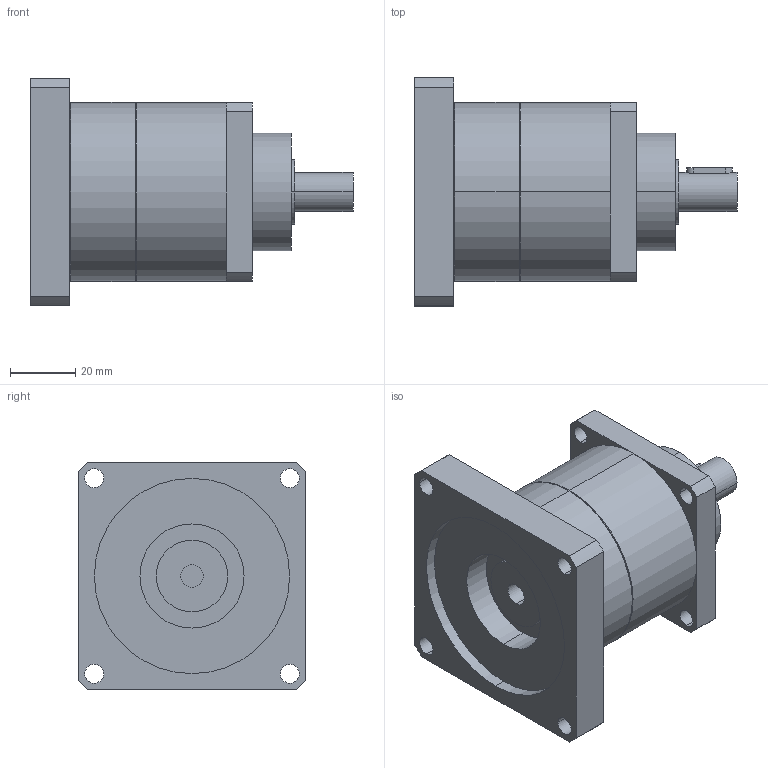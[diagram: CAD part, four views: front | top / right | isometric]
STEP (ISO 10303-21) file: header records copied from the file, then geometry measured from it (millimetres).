
FILE_DESCRIPTION(('CoCreate Modeling STEP Export'),'2;1');
FILE_NAME('GPT55_ig-3-4-5-7-10_12_B5A_7_P30.stp','2014-08-25T14:33:52',(''),(''),'CoCreate Modeling STEP processor for AP214 (Solid Model)','CoCreate Modeling 16.00C 25-Feb-2009 (C) Parametric Technology GmbH','');
FILE_SCHEMA(('AUTOMOTIVE_DESIGN { 1 0 10303 214 1 1 1 1 }'));
Length unit declared in the file: millimetre
Products named in the file (2): GPT55_ig-3-4-5-7-10_12_B5A_7_P30
Assembly tree (1 placements, depth 2):
  GPT55_ig-3-4-5-7-10_12_B5A_7_P30
    GPT55_ig-3-4-5-7-10_12_B5A_7_P30
Bounding box: 99 x 70 x 70 mm (x, y, z)
Volume: 192731.4 mm3; surface area: 29998 mm2
Topology: 1 solids, 1 shells, 77 faces, 204 edges, 139 vertices
Faces by surface type: cylinder 46, plane 27, cone 4
Entity records: 2515 total; most frequent: CARTESIAN_POINT 710, ORIENTED_EDGE 408, DIRECTION 318, EDGE_CURVE 204, VERTEX_POINT 139, AXIS2_PLACEMENT_3D 117, EDGE_LOOP 103, VECTOR 84
